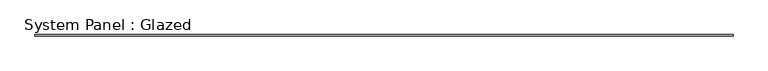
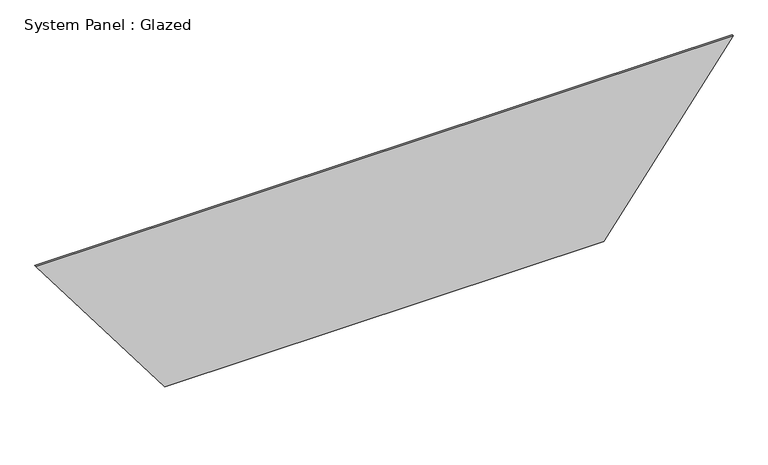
"""IFC4 building model written with IfcOpenShell, lengths in millimetres: plate geometry, System Panel : Glazed."""

from ifc_helpers import new_model, si_unit, frame, origin, place, context, project, spatial, polyline, outline, extrude, source, transform, mapped, element, save


def system_panel_glazed_aef5ca31(model_context):
    return source(origin(), model_context, "Body", "SweptSolid", [
        extrude(outline(polyline([(0.0, -4385.5941991), (0.0, 4385.5941991), (3453.3229892, 6965.3554927), (3453.3229892, -6965.3554927), (0.0, -4385.5941991)])), frame((0.0, 19.05, 0.0), z_axis=(0.0, 1.0, 0.0), x_axis=(0.0, 0.0, 1.0)), (0.0, 0.0, 1.0), 25.4),
    ])


if __name__ == "__main__":
    model = new_model("IFC4")
    model_context = context("Model", 3, world=origin())
    ifc_project = project(units=[si_unit("LENGTHUNIT", "METRE", prefix="MILLI")], contexts=[model_context])
    site = spatial("IfcSite", under=ifc_project)
    building = spatial("IfcBuilding", under=site)
    placement = place(None, origin())
    system_panel_glazed_shape = system_panel_glazed_aef5ca31(model_context)
    element("IfcPlate", 1, ObjectType="System Panel : Glazed", at=placement, inside=building, context=model_context, shape_type="MappedRepresentation", body=[
        mapped(system_panel_glazed_shape, transform((0.0, 0.0, 0.0), x_axis=(1.0, 0.0, 0.0), y_axis=(0.0, 1.0, 0.0), z_axis=(0.0, 0.0, 1.0))),
    ])
    save(model, "model.ifc")
